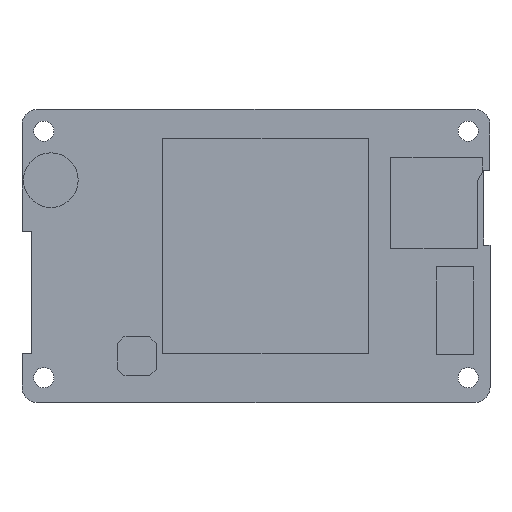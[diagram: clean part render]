
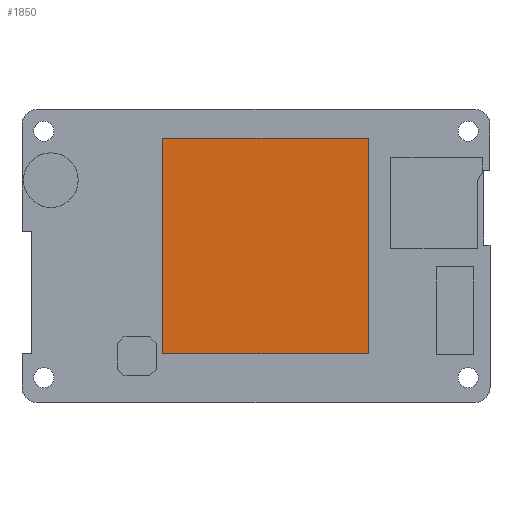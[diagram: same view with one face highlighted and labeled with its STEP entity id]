
A CAD part, top view. The second image highlights one B-rep face of the part: STEP entity #1850.
In plain terms, the highlighted planar face has unit normal (0, 0, 1).
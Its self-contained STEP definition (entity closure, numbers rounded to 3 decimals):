
#605=DIRECTION('',(1.,0.,0.));
#606=VECTOR('',#605,33.5);
#607=CARTESIAN_POINT('',(-17.791,-16.166,2.8));
#608=LINE('',#607,#606);
#609=DIRECTION('',(0.,-1.,0.));
#610=VECTOR('',#609,35.1);
#611=CARTESIAN_POINT('',(-17.791,18.934,2.8));
#612=LINE('',#611,#610);
#613=DIRECTION('',(-1.,0.,0.));
#614=VECTOR('',#613,33.5);
#615=CARTESIAN_POINT('',(15.709,18.934,2.8));
#616=LINE('',#615,#614);
#617=DIRECTION('',(0.,1.,0.));
#618=VECTOR('',#617,35.1);
#619=CARTESIAN_POINT('',(15.709,-16.166,2.8));
#620=LINE('',#619,#618);
#877=CARTESIAN_POINT('',(-17.791,-16.166,2.8));
#878=CARTESIAN_POINT('',(15.709,-16.166,2.8));
#879=VERTEX_POINT('',#877);
#880=VERTEX_POINT('',#878);
#881=CARTESIAN_POINT('',(15.709,18.934,2.8));
#882=VERTEX_POINT('',#881);
#883=CARTESIAN_POINT('',(-17.791,18.934,2.8));
#884=VERTEX_POINT('',#883);
#1839=CARTESIAN_POINT('',(0.,0.,2.8));
#1840=DIRECTION('',(0.,0.,1.));
#1841=DIRECTION('',(0.,1.,0.));
#1842=AXIS2_PLACEMENT_3D('',#1839,#1840,#1841);
#1843=PLANE('',#1842);
#1844=ORIENTED_EDGE('',*,*,#1791,.F.);
#1845=ORIENTED_EDGE('',*,*,#1806,.F.);
#1846=ORIENTED_EDGE('',*,*,#1820,.F.);
#1847=ORIENTED_EDGE('',*,*,#1833,.F.);
#1848=EDGE_LOOP('',(#1844,#1845,#1846,#1847));
#1849=FACE_OUTER_BOUND('',#1848,.F.);
#1791=EDGE_CURVE('',#879,#880,#608,.T.);
#1806=EDGE_CURVE('',#884,#879,#612,.T.);
#1820=EDGE_CURVE('',#882,#884,#616,.T.);
#1833=EDGE_CURVE('',#880,#882,#620,.T.);
#1850=ADVANCED_FACE('',(#1849),#1843,.T.);
